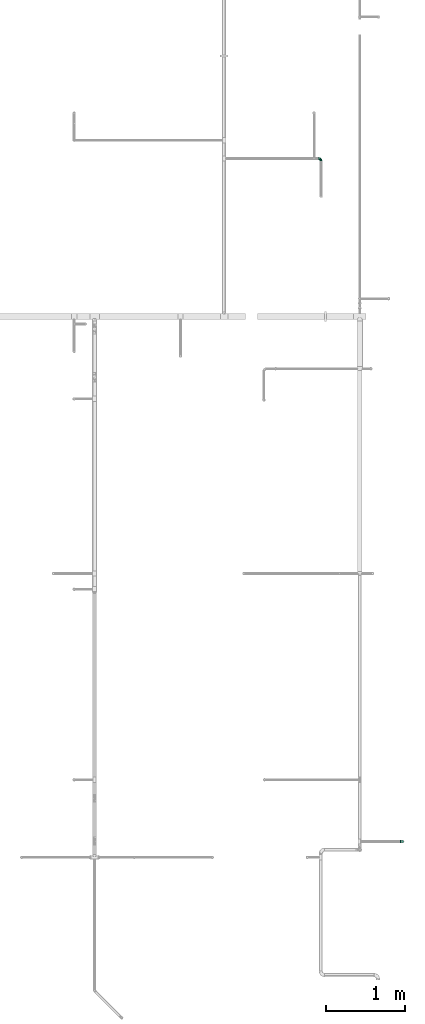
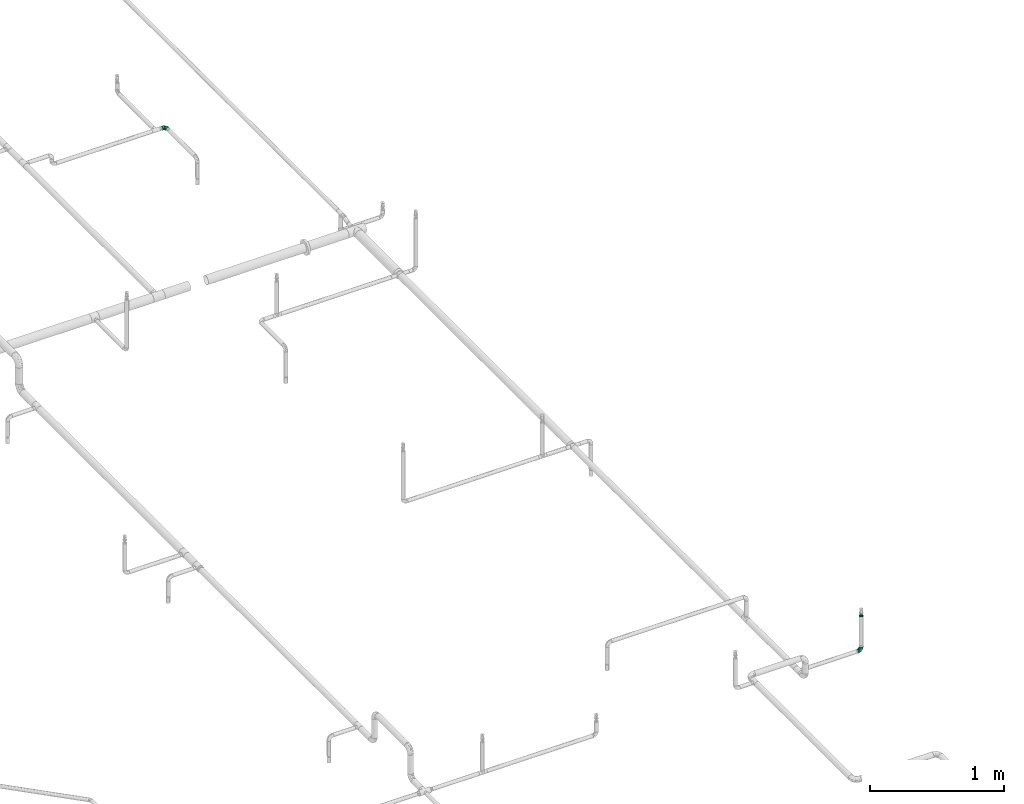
# One storey, part 126 of 157: 3 flow fittings.
"""IFC2X3 building model written with IfcOpenShell, lengths in millimetres."""

from ifc_helpers import new_model, entity, si_unit, converted_unit, derived_unit, direction, frame, origin_with_axes, place, context, subcontext, project, spatial, open_shell, surface_model, source, transform, mapped, type_object, element, save


model = new_model("IFC2X3")

# Units and contexts
model_context = context("Model", 3, precision=0.01, world=frame((0.0, 4.29681676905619e-09, 0.0)), true_north=direction((4.01073788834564e-13, 1.0)))
plan_context = context("Plan", 3, precision=0.01, world=frame((0.0, 4.29681676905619e-09, 0.0)), true_north=direction((4.01073788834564e-13, 1.0)))
body_context = subcontext(model_context, "Body", "Model", "MODEL_VIEW")
ifc_project = project(units=[converted_unit("PLANEANGLEUNIT", "DEGREE", entity("IfcPositiveLengthMeasure", 0.0174532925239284), si_unit("PLANEANGLEUNIT", "RADIAN"), dimensions=[0, 0, 0, 0, 0, 0, 0]), si_unit("AREAUNIT", "SQUARE_METRE"), si_unit("LENGTHUNIT", "METRE", prefix="MILLI"), si_unit("MASSUNIT", "GRAM", prefix="KILO"), si_unit("POWERUNIT", "WATT"), si_unit("PRESSUREUNIT", "PASCAL"), si_unit("FORCEUNIT", "NEWTON", prefix="KILO"), si_unit("ELECTRICCURRENTUNIT", "AMPERE"), si_unit("THERMODYNAMICTEMPERATUREUNIT", "DEGREE_CELSIUS"), si_unit("TIMEUNIT", "SECOND"), si_unit("VOLUMEUNIT", "CUBIC_METRE"), derived_unit("LINEARVELOCITYUNIT", [(si_unit("LENGTHUNIT", "METRE"), 1), (si_unit("TIMEUNIT", "SECOND"), -1)]), derived_unit("VOLUMETRICFLOWRATEUNIT", [(si_unit("VOLUMEUNIT", "CUBIC_METRE"), 1), (si_unit("TIMEUNIT", "SECOND"), -1)]), derived_unit("THERMALTRANSMITTANCEUNIT", [(si_unit("POWERUNIT", "WATT"), 1), (si_unit("THERMODYNAMICTEMPERATUREUNIT", "KELVIN"), -1), (si_unit("AREAUNIT", "SQUARE_METRE"), -1)])], contexts=[model_context, plan_context])

# Site, building, storey
site_placement = place(None, frame((0.0, -4.29681676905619e-09, 0.0), z_axis=(0.0, 0.0, 1.0), x_axis=(1.0, 0.0, 0.0)))
site = spatial("IfcSite", under=ifc_project, at=site_placement, CompositionType="ELEMENT")
building_placement = place(site_placement, frame((0.0, 4.29681676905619e-09, 0.0), z_axis=(0.0, 0.0, 1.0), x_axis=(1.0, 0.0, 0.0)))
building = spatial("IfcBuilding", under=site, at=building_placement, Name="mc-building", CompositionType="ELEMENT")
storey_placement = place(building_placement, frame((0.0, 0.0, 204000.0), z_axis=(0.0, 0.0, 1.0), x_axis=(1.0, 0.0, 0.0)))
storey = spatial("IfcBuildingStorey", under=building, at=storey_placement, Name="Nivå D", CompositionType="ELEMENT", Elevation=204000.0)

# Flow fittings
pipe_fitting_type_1 = type_object("IfcPipeFittingType", Name="magi_pipe_fe_elbow_short_001", PredefinedType="BEND")
shared_shape_1 = source(origin_with_axes(), body_context, "Body", "SurfaceModel", [
    surface_model("IfcShellBasedSurfaceModel", [(-33.8, 8.45, -14.63583), (-33.8, 4.37404, -16.32415), (-33.8, 11.9501, -11.9501), (-33.8, -11.9501, -11.9501), (-33.8, -14.63583, -8.45), (-33.8, -8.45, -14.63583), (-33.8, 0.0, -16.9), (-33.8, -4.37404, -16.32415), (-33.8, -4.37404, 16.32415), (-33.8, 0.0, 16.9), (-33.8, -8.45, 14.63583), (-33.8, 16.32415, -4.37404), (-33.8, 14.63583, -8.45), (-33.8, -16.32415, -4.37404), (-33.8, -16.9, 0.0), (-33.8, -16.32415, 4.37404), (-33.8, 11.9501, 11.9501), (-33.8, 14.63583, 8.45), (-33.8, 16.32415, 4.37404), (-33.8, 4.37404, 16.32415), (-33.8, 8.45, 14.63583), (-33.8, -14.63583, 8.45), (-33.8, -11.9501, 11.9501), (-33.8, 16.9, 0.0), (-11.9501, 33.8, -11.9501), (0.0, 33.8, -16.9), (-4.37404, 33.8, -16.32415), (-8.45, 33.8, -14.63583), (-14.63583, 33.8, -8.45), (-16.32415, 33.8, -4.37404), (14.63583, 33.8, -8.45), (8.45, 33.8, 14.63583), (16.32415, 33.8, -4.37404), (8.45, 33.8, -14.63583), (11.9501, 33.8, -11.9501), (4.37404, 33.8, -16.32415), (16.32415, 33.8, 4.37404), (16.9, 33.8, 0.0), (-11.9501, 33.8, 11.9501), (-16.32415, 33.8, 4.37404), (-14.63583, 33.8, 8.45), (-8.45, 33.8, 14.63583), (-4.37404, 33.8, 16.32415), (11.9501, 33.8, 11.9501), (14.63583, 33.8, 8.45), (0.0, 33.8, 16.9), (4.37404, 33.8, 16.32415), (-16.9, 33.8, 0.0), (-24.79389, -13.12945, 9.48721), (-22.19287, -9.75018, 12.59315), (-24.09897, -14.97035, 0.0), (-14.93934, -10.76256, 8.5297), (-22.46095, -14.75051, 5.27077), (14.75051, 22.46094, 5.27077), (11.9251, 13.23888, 4.33236), (13.04069, 14.39795, 0.0), (7.71387, 13.68847, 11.55891), (9.75018, 22.19287, 12.59315), (4.10169, 13.0571, 14.04018), (-24.84007, -6.39063, 15.2048), (-25.81779, -2.23879, 16.61097), (-23.66549, 2.59054, 16.87119), (-26.50418, 14.06512, 11.08152), (-24.21253, 17.66365, 7.72657), (-29.58514, 15.86957, 7.00283), (-6.17382, -7.5455, 0.0), (-13.23888, -11.9251, 4.33236), (-14.39795, -13.04069, 0.0), (-17.81434, 18.87373, 11.97104), (-6.30846, 29.15138, 15.82987), (-2.31622, 25.28002, 16.85849), (-29.23923, 10.23435, 13.77053), (-1.45439, -2.85688, 7.61475), (-0.28326, 0.34872, 10.09509), (-5.74484, -4.04709, 10.4122), (-4.41137, 11.31918, 16.59407), (-8.39727, 3.10034, 15.7812), (-1.72649, 9.1306, 15.53089), (-17.39909, 24.75344, 7.64977), (-26.19233, 20.0512, 0.0), (-28.14518, 17.29657, 4.25857), (-26.05147, 6.6281, 15.96447), (-5.87354, 16.61944, 16.86968), (-12.51807, 12.51807, 16.48937), (-10.06312, 7.38516, 16.81295), (-3.01882, 3.01882, 13.81718), (-13.0571, -4.10169, 14.04018), (-16.82553, -0.15166, 16.38038), (10.76256, 14.93934, 8.5297), (13.12945, 24.79389, 9.48721), (6.39063, 24.84007, 15.2048), (2.23879, 25.81779, 16.61097), (-13.68847, -7.71387, 11.55891), (14.97035, 24.09897, 0.0), (-7.30894, 22.89991, 16.09489), (-10.67958, 26.17414, 14.008), (-12.78295, 18.26924, 15.06066), (-13.88562, 22.45231, 12.93244), (-18.04944, 15.16501, 14.04434), (-23.11658, 20.08178, 4.02986), (-21.84989, 21.84989, 0.0), (-18.55817, 25.48277, 3.93065), (-13.95142, 26.94732, 11.03289), (-18.57098, 7.23906, 16.59756), (-16.58335, 4.14122, 16.89279), (-17.96666, 11.46709, 15.63151), (-9.84453, 17.54304, 16.18938), (0.15166, 16.82553, 16.38038), (-23.27207, 11.47201, 14.23154), (3.84842, 5.86994, 10.70473), (-8.0212, -7.54413, 7.93275), (1.00345, -2.19508, 4.57414), (5.13203, 3.01004, 5.90201), (5.24161, 1.7543, 2.53265), (8.70457, 7.04947, 3.99182), (-20.0512, 26.19233, 0.0), (8.4852, 8.76699, 7.09296), (-4.55488, -6.72064, 4.90681), (2.05031, -2.05031, 0.0), (7.5455, 6.17382, 0.0), (-26.75399, 2.1369, -16.845), (-14.61995, 24.73803, -11.27736), (-28.45274, -13.45335, -9.81895), (-26.00469, 6.63555, -15.96645), (-23.06726, 20.04573, -4.26202), (-13.80647, -4.26506, -14.17873), (-14.67501, -0.21081, -16.07388), (-6.7902, -0.2828, -13.8478), (-24.53586, 11.08096, -14.13417), (-26.72048, 14.00837, -11.05776), (10.0967, 24.44989, -12.75976), (5.83237, 21.40218, -15.03047), (6.66249, 28.54238, -15.38093), (-20.38182, 15.48705, -12.74596), (12.53268, 21.23441, -9.15363), (12.54494, 15.67504, -5.54878), (9.7522, 12.89279, -8.66343), (-15.65186, 19.64213, -13.01327), (-12.03528, 20.66498, -14.67665), (-15.61907, 15.61906, -14.83879), (-25.56551, -15.26206, 0.0), (-24.65452, -15.12934, -5.50955), (13.45335, 28.45274, -9.81895), (15.12934, 24.65452, -5.50955), (-7.35442, -8.31014, -5.65563), (-15.67504, -12.54494, -5.54878), (-24.44989, -10.0967, -12.75976), (0.16522, 0.41303, -9.71728), (-5.70658, -5.33066, -8.89288), (-5.13869, -2.37198, -11.53565), (-21.23441, -12.53268, -9.15363), (0.71146, 7.93863, -14.09382), (0.21081, 14.67501, -16.07388), (3.49291, 14.42772, -14.76381), (-24.89911, -2.13088, -16.591), (-28.54238, -6.66249, -15.38093), (-18.44386, -7.71663, -13.26957), (2.13088, 24.89911, -16.591), (-28.64342, 17.44413, -2.89318), (1.70017, -1.28722, -5.09504), (-16.57067, 26.81947, -7.36596), (-17.69055, 27.4263, -3.76405), (-12.89279, -9.7522, -8.66343), (-5.96611, 5.96611, -15.95814), (-20.53709, 20.09345, -8.28985), (-2.1369, 26.75399, -16.845), (-6.89872, 24.58781, -16.02578), (-10.60739, 26.53157, -13.98044), (-21.40218, -5.83237, -15.03047), (2.93192, 5.89627, -11.55917), (6.89393, 12.61842, -11.82233), (5.58056, 5.95325, -8.79455), (-3.99512, 18.61798, -16.89635), (8.31014, 7.35442, -5.65563), (-9.1383, 9.86148, -16.89041), (-9.99983, 16.02119, -16.39699), (-16.68576, 9.78031, -16.34199), (-27.01915, 16.61158, -7.12979), (15.26206, 25.56551, 0.0), (-18.61798, 3.99512, -16.89635), (-19.37495, 27.82495, 0.0), (-12.61842, -6.89393, -11.82233), (-18.84705, 19.14018, -10.96545)], [open_shell([[[0, 1, 2]], [[3, 4, 5]], [[6, 7, 5]], [[8, 9, 10]], [[1, 6, 2]], [[11, 12, 2]], [[4, 2, 6]], [[2, 13, 10]], [[5, 4, 6]], [[2, 4, 13]], [[14, 15, 13]], [[11, 2, 16]], [[11, 17, 18]], [[11, 16, 17]], [[19, 20, 16]], [[16, 2, 10]], [[19, 16, 10]], [[21, 22, 15]], [[22, 13, 15]], [[22, 10, 13]], [[10, 9, 19]], [[11, 18, 23]], [[24, 25, 26]], [[24, 26, 27]], [[24, 28, 29]], [[25, 24, 30]], [[31, 32, 24]], [[33, 30, 34]], [[33, 35, 25]], [[25, 30, 33]], [[32, 30, 24]], [[32, 36, 37]], [[38, 24, 29]], [[39, 40, 29]], [[40, 38, 29]], [[38, 41, 42]], [[38, 31, 24]], [[31, 38, 42]], [[36, 43, 44]], [[36, 32, 43]], [[31, 45, 46]], [[32, 31, 43]], [[42, 45, 31]], [[39, 29, 47]], [[22, 48, 49]], [[15, 14, 50]], [[51, 48, 52]], [[53, 54, 55]], [[48, 22, 21]], [[15, 52, 21]], [[56, 57, 58]], [[49, 10, 22]], [[49, 59, 10]], [[9, 60, 61]], [[62, 63, 64]], [[65, 66, 67]], [[57, 43, 31]], [[62, 68, 63]], [[42, 69, 70]], [[20, 71, 16]], [[8, 60, 9]], [[72, 73, 74]], [[75, 76, 77]], [[16, 62, 17]], [[40, 39, 78]], [[79, 23, 80]], [[64, 18, 17]], [[9, 61, 19]], [[19, 81, 20]], [[82, 83, 84]], [[74, 85, 86]], [[59, 86, 87]], [[88, 89, 57]], [[90, 31, 46]], [[44, 53, 36]], [[46, 45, 91]], [[54, 53, 88]], [[44, 89, 53]], [[92, 86, 49]], [[89, 44, 43]], [[10, 59, 8]], [[53, 55, 93]], [[93, 36, 53]], [[66, 52, 67]], [[94, 82, 70]], [[95, 96, 94]], [[97, 98, 96]], [[79, 99, 100]], [[41, 38, 95]], [[101, 100, 99]], [[68, 78, 63]], [[42, 41, 69]], [[23, 18, 80]], [[95, 94, 69]], [[78, 101, 99]], [[38, 102, 95]], [[70, 45, 42]], [[97, 95, 102]], [[15, 50, 52]], [[90, 57, 31]], [[57, 90, 58]], [[81, 19, 61]], [[103, 104, 84]], [[105, 81, 103]], [[38, 40, 102]], [[106, 96, 83]], [[94, 106, 82]], [[91, 70, 107]], [[71, 62, 16]], [[62, 108, 98]], [[86, 59, 49]], [[67, 52, 50]], [[60, 59, 87]], [[92, 49, 51]], [[86, 85, 76]], [[91, 90, 46]], [[37, 36, 93]], [[107, 77, 58]], [[107, 58, 90]], [[58, 85, 109]], [[110, 74, 92]], [[72, 74, 110]], [[66, 51, 52]], [[72, 111, 112]], [[113, 114, 112]], [[56, 88, 57]], [[52, 48, 21]], [[49, 48, 51]], [[57, 89, 43]], [[53, 89, 88]], [[103, 81, 61]], [[71, 81, 108]], [[18, 64, 80]], [[63, 78, 99]], [[47, 115, 101]], [[101, 115, 100]], [[40, 78, 102]], [[68, 102, 78]], [[97, 96, 95]], [[105, 98, 108]], [[103, 84, 83]], [[107, 70, 82]], [[76, 84, 87]], [[82, 84, 75]], [[70, 91, 45]], [[90, 91, 107]], [[59, 60, 8]], [[61, 60, 87]], [[73, 85, 74]], [[109, 112, 116]], [[103, 61, 104]], [[105, 103, 83]], [[96, 105, 83]], [[81, 105, 108]], [[96, 98, 105]], [[62, 98, 68]], [[61, 87, 104]], [[87, 84, 104]], [[86, 76, 87]], [[77, 76, 85]], [[58, 77, 85]], [[75, 77, 107]], [[82, 75, 107]], [[76, 75, 84]], [[81, 71, 20]], [[62, 71, 108]], [[95, 69, 41]], [[70, 69, 94]], [[62, 64, 17]], [[80, 63, 99]], [[63, 80, 64]], [[80, 99, 79]], [[66, 65, 117]], [[110, 66, 117]], [[112, 114, 116]], [[118, 117, 65]], [[110, 92, 51]], [[112, 111, 113]], [[119, 55, 54]], [[74, 86, 92]], [[58, 109, 56]], [[116, 56, 109]], [[66, 110, 51]], [[72, 110, 117]], [[111, 72, 117]], [[73, 112, 109]], [[117, 118, 111]], [[113, 111, 118]], [[118, 119, 113]], [[114, 119, 54]], [[119, 114, 113]], [[116, 54, 88]], [[54, 116, 114]], [[116, 88, 56]], [[112, 73, 72]], [[85, 73, 109]], [[78, 39, 101]], [[47, 101, 39]], [[102, 68, 97]], [[97, 68, 98]], [[82, 106, 83]], [[94, 96, 106]], [[1, 120, 6]], [[28, 24, 121]], [[3, 122, 4]], [[0, 123, 1]], [[100, 124, 79]], [[125, 126, 127]], [[128, 2, 129]], [[130, 131, 132]], [[128, 129, 133]], [[134, 135, 136]], [[137, 138, 139]], [[128, 0, 2]], [[67, 140, 141]], [[134, 142, 143]], [[141, 13, 4]], [[144, 65, 145]], [[146, 3, 5]], [[147, 148, 149]], [[145, 141, 150]], [[151, 152, 153]], [[154, 7, 6]], [[5, 155, 146]], [[150, 146, 156]], [[155, 5, 7]], [[143, 135, 134]], [[35, 157, 25]], [[23, 79, 158]], [[148, 159, 144]], [[160, 161, 29]], [[145, 162, 144]], [[163, 152, 151]], [[29, 28, 160]], [[121, 164, 160]], [[33, 34, 130]], [[25, 165, 26]], [[26, 165, 166]], [[142, 34, 30]], [[24, 27, 167]], [[124, 161, 164]], [[157, 35, 132]], [[155, 154, 168]], [[123, 0, 128]], [[169, 170, 171]], [[172, 157, 152]], [[26, 166, 27]], [[132, 35, 33]], [[142, 130, 34]], [[168, 154, 126]], [[136, 135, 173]], [[133, 137, 139]], [[2, 12, 129]], [[170, 131, 130]], [[30, 32, 143]], [[172, 174, 175]], [[176, 123, 128]], [[158, 177, 11]], [[135, 55, 119]], [[167, 27, 166]], [[175, 166, 172]], [[137, 167, 138]], [[122, 141, 4]], [[140, 14, 13]], [[32, 37, 178]], [[170, 130, 134]], [[152, 157, 131]], [[165, 157, 172]], [[153, 170, 151]], [[152, 163, 174]], [[168, 125, 156]], [[122, 146, 150]], [[120, 154, 6]], [[179, 174, 126]], [[179, 126, 154]], [[126, 163, 127]], [[162, 145, 150]], [[140, 13, 141]], [[32, 178, 143]], [[55, 143, 178]], [[177, 129, 12]], [[128, 133, 139]], [[176, 128, 139]], [[120, 123, 179]], [[121, 160, 28]], [[161, 100, 180]], [[166, 175, 138]], [[121, 24, 167]], [[161, 47, 29]], [[79, 124, 158]], [[124, 164, 177]], [[161, 124, 100]], [[136, 171, 170]], [[127, 163, 151]], [[147, 171, 159]], [[148, 144, 162]], [[127, 151, 169]], [[127, 181, 125]], [[129, 177, 164]], [[12, 11, 177]], [[159, 65, 144]], [[67, 141, 145]], [[143, 55, 135]], [[135, 119, 173]], [[123, 120, 1]], [[154, 120, 179]], [[157, 165, 25]], [[166, 165, 172]], [[172, 152, 174]], [[176, 139, 175]], [[126, 174, 163]], [[176, 174, 179]], [[174, 176, 175]], [[123, 176, 179]], [[150, 181, 162]], [[127, 149, 181]], [[181, 148, 162]], [[159, 148, 147]], [[171, 136, 173]], [[170, 134, 136]], [[159, 171, 173]], [[171, 147, 169]], [[169, 147, 149]], [[151, 170, 169]], [[164, 182, 129]], [[182, 121, 137]], [[181, 149, 148]], [[169, 149, 127]], [[182, 137, 133]], [[167, 137, 121]], [[166, 138, 167]], [[175, 139, 138]], [[129, 182, 133]], [[121, 182, 164]], [[161, 160, 164]], [[47, 161, 180]], [[177, 158, 124]], [[23, 158, 11]], [[130, 132, 33]], [[157, 132, 131]], [[143, 142, 30]], [[130, 142, 134]], [[154, 155, 7]], [[146, 155, 168]], [[146, 122, 3]], [[141, 122, 150]], [[152, 131, 153]], [[159, 119, 118]], [[67, 145, 65]], [[170, 153, 131]], [[119, 159, 173]], [[159, 118, 65]], [[156, 125, 181]], [[126, 125, 168]], [[150, 156, 181]], [[168, 156, 146]]])]),
])
for number, where, z_axis, x_axis, name in (
    (1, (530612.35289, 416029.5488, 2600.0), (0.0, 0.0, 1.0), (0.0, 1.0, 0.0), "magi_pipe_fe_elbow_short_001"),
    (2, (531640.89876, 407421.65, 2690.0), (0.0, 1.0, 0.0), (0.0, 0.0, -1.0), "magi_pipe_fe_elbow_short_001"),
):
    element("IfcFlowFitting", number, at=place(storey_placement, frame(where, z_axis=z_axis, x_axis=x_axis)), inside=storey, type_object=pipe_fitting_type_1, Name=name, context=body_context, shape_type="MappedRepresentation", body=[
        mapped(shared_shape_1, transform((0.0, 0.0, 0.0), scale=1.0)),
    ])
pipe_fitting_type_2 = type_object("IfcPipeFittingType", Name="magi_pipe_fe_reducer_centric_short_NOR", PredefinedType="TRANSITION")
shared_shape_2 = source(origin_with_axes(), body_context, "Body", "SurfaceModel", [
    surface_model("IfcShellBasedSurfaceModel", [(-2.0, -7.56604, -7.56604), (-2.0, -10.33541, -2.76936), (-2.0, -5.35, -9.26647), (-2.0, 5.35, -9.26647), (-2.0, 10.33541, -2.76936), (-2.0, 7.56604, -7.56604), (12.4, 11.9501, 11.9501), (12.4, 0.0, 16.9), (12.4, 11.9501, -11.9501), (12.4, 16.9, 0.0), (0.0, -10.7, 0.0), (0.0, -5.35, 9.26647), (0.0, -5.35, -9.26647), (0.0, 10.7, 0.0), (12.4, 15.66253, -2.98753), (12.4, 8.96258, -13.18758), (0.0, 6.6875, -6.94985), (12.4, -15.66253, -2.98753), (12.4, -16.9, 0.0), (12.4, 5.97505, -14.42505), (0.0, 5.35, -9.26647), (12.4, 14.42505, -5.97505), (0.0, 8.025, -4.63324), (0.0, 9.3625, -2.31662), (0.0, -9.3625, -2.31662), (0.0, -8.025, -4.63324), (12.4, -14.42505, -5.97505), (12.4, 13.18758, -8.96258), (12.4, -13.18758, -8.96258), (12.4, -11.9501, -11.9501), (0.0, -6.6875, -6.94985), (12.4, -8.96258, -13.18758), (12.4, -5.97505, -14.42505), (12.4, -15.66253, 2.98753), (12.4, -8.96258, 13.18758), (0.0, -6.6875, 6.94985), (12.4, -11.9501, 11.9501), (12.4, 15.66253, 2.98753), (12.4, -5.97505, 14.42505), (12.4, -14.42505, 5.97505), (0.0, -8.025, 4.63324), (0.0, -9.3625, 2.31662), (0.0, 9.3625, 2.31662), (0.0, 8.025, 4.63324), (12.4, 14.42505, 5.97505), (12.4, -13.18758, 8.96258), (12.4, 13.18758, 8.96258), (0.0, 6.6875, 6.94985), (12.4, 8.96258, 13.18758), (0.0, 5.35, 9.26647), (12.4, 5.97505, 14.42505), (14.4, 4.37404, -16.32415), (14.4, 8.45, -14.63583), (14.4, 11.9501, -11.9501), (14.4, -8.45, -14.63583), (14.4, 16.32415, -4.37404), (14.4, 16.32415, 4.37404), (14.4, 14.63583, -8.45), (14.4, 0.0, -16.9), (14.4, -4.37404, -16.32415), (14.4, -11.9501, -11.9501), (14.4, -16.32415, -4.37404), (14.4, -14.63583, -8.45), (14.4, -16.32415, 4.37404), (14.4, 16.9, 0.0), (14.4, 14.63583, 8.45), (14.4, 11.9501, 11.9501), (14.4, 4.37404, 16.32415), (14.4, 8.45, 14.63583), (14.4, 0.0, 16.9), (14.4, -14.63583, 8.45), (14.4, -16.9, 0.0), (14.4, -8.45, 14.63583), (14.4, -11.9501, 11.9501), (14.4, -4.37404, 16.32415), (12.4, 4.37404, 16.32415), (12.4, -14.63583, 8.45), (12.4, 16.32415, 4.37404), (12.4, 8.45, 14.63583), (12.4, 14.63583, 8.45), (12.4, -8.45, 14.63583), (12.4, -4.37404, 16.32415), (12.4, -16.32415, 4.37404), (12.4, -16.32415, -4.37404), (12.4, -8.45, -14.63583), (12.4, 16.32415, -4.37404), (12.4, 14.63583, -8.45), (12.4, 8.45, -14.63583), (12.4, 4.37404, -16.32415), (12.4, 0.0, -16.9), (12.4, -14.63583, -8.45), (12.4, -4.37404, -16.32415), (-2.0, 2.76936, 10.33541), (-2.0, 0.0, 10.7), (-2.0, 5.35, 9.26647), (-2.0, 7.56604, 7.56604), (-2.0, 9.26647, 5.35), (-2.0, 10.33541, 2.76936), (-2.0, -10.33541, 2.76936), (-2.0, -2.76936, 10.33541), (-2.0, -7.56604, 7.56604), (-2.0, -5.35, 9.26647), (-2.0, -9.26647, 5.35), (-2.0, -10.7, 0.0), (-2.0, 9.26647, -5.35), (-2.0, 2.76936, -10.33541), (-2.0, -9.26647, -5.35), (-2.0, 0.0, -10.7), (-2.0, -2.76936, -10.33541), (-2.0, 10.7, 0.0), (0.0, 0.0, -10.7), (0.0, 2.76936, -10.33541), (0.0, 10.33541, -2.76936), (0.0, 7.56604, -7.56604), (0.0, -10.33541, -2.76936), (0.0, 9.26647, -5.35), (0.0, 0.0, 10.7), (0.0, -2.76936, -10.33541), (0.0, -7.56604, -7.56604), (0.0, -9.26647, -5.35), (0.0, 10.33541, 2.76936), (0.0, 9.26647, 5.35), (0.0, 7.56604, 7.56604), (0.0, 2.76936, 10.33541), (0.0, -7.56604, 7.56604), (0.0, -10.33541, 2.76936), (0.0, -9.26647, 5.35), (0.0, -2.76936, 10.33541), (0.0, 2.675, -9.26647), (0.0, -2.675, -9.26647), (12.4, 2.98753, -15.66253), (0.0, 0.0, -9.26647), (12.4, -2.98753, -15.66253), (0.0, -2.675, 9.26647), (0.0, 2.675, 9.26647), (12.4, -2.98753, 15.66253), (0.0, 0.0, 9.26647), (12.4, 2.98753, 15.66253)], [open_shell([[[0, 1, 2]], [[3, 4, 5]], [[6, 7, 8]], [[8, 9, 6]], [[10, 11, 12]], [[13, 9, 14]], [[15, 16, 8]], [[17, 18, 10]], [[15, 19, 20]], [[21, 22, 23]], [[24, 25, 26]], [[22, 21, 27]], [[28, 26, 25]], [[29, 30, 31]], [[12, 32, 31]], [[10, 18, 33]], [[34, 35, 36]], [[37, 9, 13]], [[34, 38, 11]], [[39, 40, 41]], [[42, 43, 44]], [[40, 39, 45]], [[46, 44, 43]], [[6, 47, 48]], [[49, 50, 48]], [[51, 52, 53]], [[54, 51, 53]], [[53, 55, 56]], [[55, 53, 57]], [[53, 56, 54]], [[58, 54, 59]], [[58, 51, 54]], [[60, 61, 62]], [[61, 60, 54]], [[54, 63, 61]], [[56, 55, 64]], [[56, 65, 66]], [[56, 66, 67]], [[67, 63, 54]], [[67, 66, 68]], [[63, 67, 69]], [[69, 70, 63]], [[71, 61, 63]], [[70, 72, 73]], [[70, 69, 72]], [[72, 69, 74]], [[54, 56, 67]], [[75, 76, 7]], [[77, 75, 78]], [[6, 79, 77]], [[6, 77, 78]], [[76, 75, 77]], [[80, 76, 36]], [[80, 81, 7]], [[7, 76, 80]], [[82, 76, 77]], [[82, 83, 18]], [[82, 77, 84]], [[77, 85, 8]], [[8, 85, 86]], [[8, 87, 88]], [[84, 77, 8]], [[88, 89, 8]], [[83, 29, 90]], [[29, 83, 84]], [[84, 89, 91]], [[83, 82, 84]], [[8, 89, 84]], [[85, 77, 9]], [[83, 61, 18]], [[90, 62, 83]], [[54, 29, 84]], [[90, 29, 60]], [[59, 84, 91]], [[83, 62, 61]], [[61, 71, 18]], [[59, 54, 84]], [[60, 29, 54]], [[60, 62, 90]], [[58, 59, 91]], [[91, 89, 58]], [[88, 51, 89]], [[87, 52, 88]], [[57, 8, 86]], [[87, 8, 53]], [[55, 86, 85]], [[87, 53, 52]], [[52, 51, 88]], [[64, 55, 85]], [[57, 86, 55]], [[57, 53, 8]], [[9, 64, 85]], [[89, 51, 58]], [[77, 56, 9]], [[79, 65, 77]], [[68, 6, 78]], [[79, 6, 66]], [[67, 78, 75]], [[77, 65, 56]], [[56, 64, 9]], [[67, 68, 78]], [[66, 6, 68]], [[66, 65, 79]], [[69, 67, 75]], [[75, 7, 69]], [[81, 74, 7]], [[80, 72, 81]], [[70, 36, 76]], [[80, 36, 73]], [[63, 76, 82]], [[80, 73, 72]], [[72, 74, 81]], [[71, 63, 82]], [[70, 76, 63]], [[70, 73, 36]], [[18, 71, 82]], [[7, 74, 69]], [[92, 1, 93]], [[94, 1, 92]], [[95, 96, 97]], [[95, 97, 94]], [[98, 93, 1]], [[99, 100, 101]], [[99, 93, 100]], [[100, 98, 102]], [[93, 98, 100]], [[98, 1, 103]], [[94, 97, 1]], [[1, 97, 4]], [[5, 4, 104]], [[4, 3, 1]], [[105, 1, 3]], [[1, 0, 106]], [[2, 107, 108]], [[2, 1, 105]], [[105, 107, 2]], [[4, 97, 109]], [[20, 110, 111]], [[112, 20, 113]], [[114, 20, 112]], [[112, 113, 115]], [[116, 114, 112]], [[110, 12, 117]], [[110, 20, 12]], [[118, 114, 119]], [[114, 118, 12]], [[20, 114, 12]], [[112, 13, 120]], [[120, 121, 122]], [[120, 122, 123]], [[116, 112, 123]], [[123, 122, 49]], [[116, 124, 114]], [[125, 124, 126]], [[10, 114, 125]], [[124, 127, 11]], [[125, 114, 124]], [[127, 124, 116]], [[123, 112, 120]], [[1, 114, 103]], [[106, 119, 1]], [[12, 0, 2]], [[106, 0, 118]], [[117, 2, 108]], [[1, 119, 114]], [[114, 10, 103]], [[117, 12, 2]], [[118, 0, 12]], [[118, 119, 106]], [[110, 117, 108]], [[108, 107, 110]], [[105, 111, 107]], [[3, 20, 105]], [[115, 5, 104]], [[3, 5, 113]], [[112, 104, 4]], [[3, 113, 20]], [[20, 111, 105]], [[13, 112, 4]], [[115, 104, 112]], [[115, 113, 5]], [[109, 13, 4]], [[107, 111, 110]], [[97, 120, 109]], [[96, 121, 97]], [[49, 95, 94]], [[96, 95, 122]], [[123, 94, 92]], [[97, 121, 120]], [[120, 13, 109]], [[123, 49, 94]], [[122, 95, 49]], [[122, 121, 96]], [[116, 123, 92]], [[92, 93, 116]], [[99, 127, 93]], [[101, 11, 99]], [[126, 100, 102]], [[101, 100, 124]], [[125, 102, 98]], [[101, 124, 11]], [[11, 127, 99]], [[10, 125, 98]], [[126, 102, 125]], [[126, 124, 100]], [[103, 10, 98]], [[93, 127, 116]], [[18, 7, 36]], [[18, 29, 8]], [[89, 8, 29]], [[18, 8, 7]], [[13, 11, 49]], [[13, 20, 12]], [[13, 12, 11]], [[24, 26, 17]], [[10, 24, 17]], [[16, 15, 20]], [[30, 12, 31]], [[23, 14, 21]], [[19, 128, 20]], [[27, 8, 16]], [[32, 12, 129]], [[30, 28, 25]], [[130, 131, 128]], [[129, 132, 32]], [[16, 22, 27]], [[13, 14, 23]], [[128, 19, 130]], [[130, 89, 131]], [[131, 132, 129]], [[89, 132, 131]], [[28, 30, 29]], [[42, 44, 37]], [[13, 42, 37]], [[35, 34, 11]], [[47, 49, 48]], [[41, 33, 39]], [[38, 133, 11]], [[45, 36, 35]], [[50, 49, 134]], [[47, 46, 43]], [[135, 136, 133]], [[134, 137, 50]], [[35, 40, 45]], [[10, 33, 41]], [[133, 38, 135]], [[135, 7, 136]], [[136, 137, 134]], [[7, 137, 136]], [[46, 47, 6]]])]),
])
flow_fitting_placement = place(storey_placement, frame((531640.89876, 407421.65, 3015.54800000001), z_axis=(0.0, -1.0, 0.0), x_axis=(0.0, 0.0, -1.0)))
element("IfcFlowFitting", 3, at=flow_fitting_placement, inside=storey, type_object=pipe_fitting_type_2, Name="magi_pipe_fe_reducer_centric_short_NOR", context=body_context, shape_type="MappedRepresentation", body=[
    mapped(shared_shape_2, transform((0.0, 0.0, 0.0), scale=1.0)),
])

save(model, "model.ifc")
